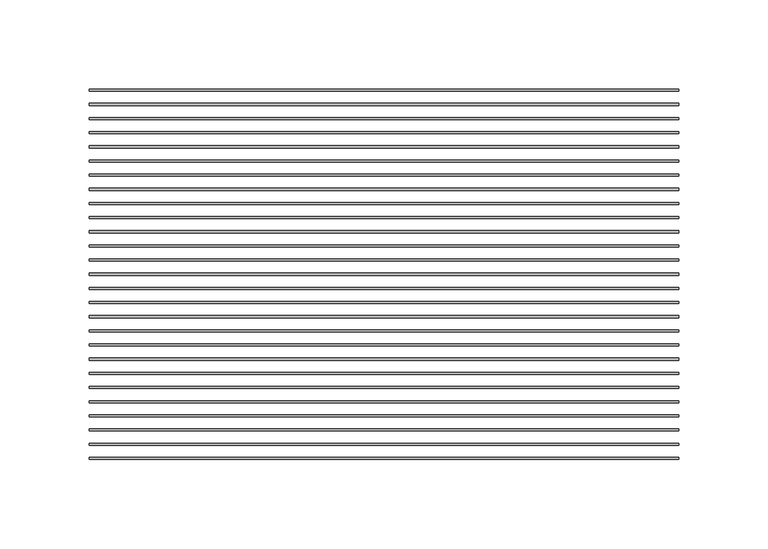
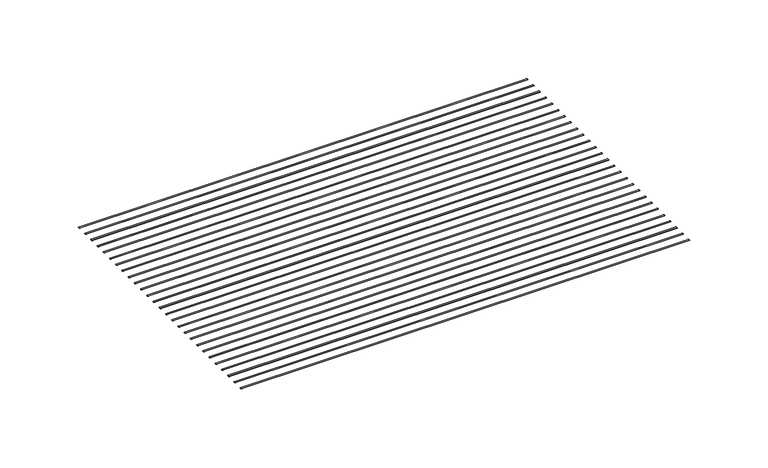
"""IFC4 building model written with IfcOpenShell, lengths in millimetres: proxy geometry, CRAi Generic Model Mesh Piece Face Based : CRAi Generic Model Mesh Piece Face Based."""

from ifc_helpers import new_model, si_unit, point, frame, origin, place, context, project, spatial, ellipse_curve, trimmed, source, transform, mapped, element, save
from ifc_brep_helpers import plane_surface, extruded_surface, advanced_brep


def generic_models_d678dd29(model_context):
    return source(origin(), model_context, "Body", "AdvancedBrep", [
        advanced_brep(
        [(-165.1, 133.1515625, -2.9765625), (-165.1, 131.9609375, -2.9765625), (165.1, 133.1515625, -2.9765625), (165.1, 131.9609375, -2.9765625)],
        [
            (0, 1, ellipse_curve(frame((-165.1, 132.55625, -2.9765625), z_axis=(-1.0, 0.0, 0.0), x_axis=(0.0, -1.0, 0.0)), 0.5953125, 0.1984375)),
            (1, 0, ellipse_curve(frame((-165.1, 132.55625, -2.9765625), z_axis=(-1.0, 0.0, 0.0), x_axis=(0.0, -1.0, 0.0)), 0.5953125, 0.1984375)),
            (2, 3, ellipse_curve(frame((165.1, 132.55625, -2.9765625), z_axis=(1.0, 0.0, 0.0), x_axis=(0.0, -1.0, 0.0)), 0.5953125, 0.1984375)),
            (3, 2, ellipse_curve(frame((165.1, 132.55625, -2.9765625), z_axis=(1.0, 0.0, 0.0), x_axis=(0.0, -1.0, 0.0)), 0.5953125, 0.1984375)),
            (0, 2),
            (3, 1),
        ],
        [
            plane_surface(frame((-165.1, 132.55625, -2.9765625), z_axis=(-1.0, 0.0, 0.0), x_axis=(0.0, 0.0, 1.0))),
            plane_surface(frame((165.1, 132.55625, -2.9765625), z_axis=(1.0, 0.0, 0.0), x_axis=(0.0, 0.0, 1.0))),
            extruded_surface(trimmed(ellipse_curve(frame((165.1, 132.55625, -2.9765625), z_axis=(-1.0, 0.0, 0.0), x_axis=(0.0, -1.0, 0.0)), 0.5953125, 0.1984375), [point((165.1, 133.1515625, -2.9765625))], [point((165.1, 131.9609375, -2.9765625))], True, "CARTESIAN"), (-330.2, 0.0, 0.0), 330.2),
            extruded_surface(trimmed(ellipse_curve(frame((165.1, 132.55625, -2.9765625), z_axis=(-1.0, 0.0, 0.0), x_axis=(0.0, -1.0, 0.0)), 0.5953125, 0.1984375), [point((165.1, 131.9609375, -2.9765625))], [point((165.1, 133.1515625, -2.9765625))], True, "CARTESIAN"), (-330.2, 0.0, 0.0), 330.2),
        ],
        [
            (0, [[1, 2]]),
            (1, [[3, 4]]),
            (2, [[-1, 5, -4, 6]]),
            (3, [[-2, -6, -3, -5]]),
        ],
    ),
        advanced_brep(
        [(-165.1, 125.2140625, -2.9765625), (-165.1, 124.0234375, -2.9765625), (165.1, 125.2140625, -2.9765625), (165.1, 124.0234375, -2.9765625)],
        [
            (0, 1, ellipse_curve(frame((-165.1, 124.61875, -2.9765625), z_axis=(-1.0, 0.0, 0.0), x_axis=(0.0, -1.0, 0.0)), 0.5953125, 0.1984375)),
            (1, 0, ellipse_curve(frame((-165.1, 124.61875, -2.9765625), z_axis=(-1.0, 0.0, 0.0), x_axis=(0.0, -1.0, 0.0)), 0.5953125, 0.1984375)),
            (2, 3, ellipse_curve(frame((165.1, 124.61875, -2.9765625), z_axis=(1.0, 0.0, 0.0), x_axis=(0.0, -1.0, 0.0)), 0.5953125, 0.1984375)),
            (3, 2, ellipse_curve(frame((165.1, 124.61875, -2.9765625), z_axis=(1.0, 0.0, 0.0), x_axis=(0.0, -1.0, 0.0)), 0.5953125, 0.1984375)),
            (0, 2),
            (3, 1),
        ],
        [
            plane_surface(frame((-165.1, 124.61875, -2.9765625), z_axis=(-1.0, 0.0, 0.0), x_axis=(0.0, 0.0, 1.0))),
            plane_surface(frame((165.1, 124.61875, -2.9765625), z_axis=(1.0, 0.0, 0.0), x_axis=(0.0, 0.0, 1.0))),
            extruded_surface(trimmed(ellipse_curve(frame((165.1, 124.61875, -2.9765625), z_axis=(-1.0, 0.0, 0.0), x_axis=(0.0, -1.0, 0.0)), 0.5953125, 0.1984375), [point((165.1, 125.2140625, -2.9765625))], [point((165.1, 124.0234375, -2.9765625))], True, "CARTESIAN"), (-330.2, 0.0, 0.0), 330.2),
            extruded_surface(trimmed(ellipse_curve(frame((165.1, 124.61875, -2.9765625), z_axis=(-1.0, 0.0, 0.0), x_axis=(0.0, -1.0, 0.0)), 0.5953125, 0.1984375), [point((165.1, 124.0234375, -2.9765625))], [point((165.1, 125.2140625, -2.9765625))], True, "CARTESIAN"), (-330.2, 0.0, 0.0), 330.2),
        ],
        [
            (0, [[1, 2]]),
            (1, [[3, 4]]),
            (2, [[-1, 5, -4, 6]]),
            (3, [[-2, -6, -3, -5]]),
        ],
    ),
        advanced_brep(
        [(-165.1, 117.2765625, -2.9765625), (-165.1, 116.0859375, -2.9765625), (165.1, 117.2765625, -2.9765625), (165.1, 116.0859375, -2.9765625)],
        [
            (0, 1, ellipse_curve(frame((-165.1, 116.68125, -2.9765625), z_axis=(-1.0, 0.0, 0.0), x_axis=(0.0, -1.0, 0.0)), 0.5953125, 0.1984375)),
            (1, 0, ellipse_curve(frame((-165.1, 116.68125, -2.9765625), z_axis=(-1.0, 0.0, 0.0), x_axis=(0.0, -1.0, 0.0)), 0.5953125, 0.1984375)),
            (2, 3, ellipse_curve(frame((165.1, 116.68125, -2.9765625), z_axis=(1.0, 0.0, 0.0), x_axis=(0.0, -1.0, 0.0)), 0.5953125, 0.1984375)),
            (3, 2, ellipse_curve(frame((165.1, 116.68125, -2.9765625), z_axis=(1.0, 0.0, 0.0), x_axis=(0.0, -1.0, 0.0)), 0.5953125, 0.1984375)),
            (0, 2),
            (3, 1),
        ],
        [
            plane_surface(frame((-165.1, 116.68125, -2.9765625), z_axis=(-1.0, 0.0, 0.0), x_axis=(0.0, 0.0, 1.0))),
            plane_surface(frame((165.1, 116.68125, -2.9765625), z_axis=(1.0, 0.0, 0.0), x_axis=(0.0, 0.0, 1.0))),
            extruded_surface(trimmed(ellipse_curve(frame((165.1, 116.68125, -2.9765625), z_axis=(-1.0, 0.0, 0.0), x_axis=(0.0, -1.0, 0.0)), 0.5953125, 0.1984375), [point((165.1, 117.2765625, -2.9765625))], [point((165.1, 116.0859375, -2.9765625))], True, "CARTESIAN"), (-330.2, 0.0, 0.0), 330.2),
            extruded_surface(trimmed(ellipse_curve(frame((165.1, 116.68125, -2.9765625), z_axis=(-1.0, 0.0, 0.0), x_axis=(0.0, -1.0, 0.0)), 0.5953125, 0.1984375), [point((165.1, 116.0859375, -2.9765625))], [point((165.1, 117.2765625, -2.9765625))], True, "CARTESIAN"), (-330.2, 0.0, 0.0), 330.2),
        ],
        [
            (0, [[1, 2]]),
            (1, [[3, 4]]),
            (2, [[-1, 5, -4, 6]]),
            (3, [[-2, -6, -3, -5]]),
        ],
    ),
        advanced_brep(
        [(-165.1, 109.3390625, -2.9765625), (-165.1, 108.1484375, -2.9765625), (165.1, 109.3390625, -2.9765625), (165.1, 108.1484375, -2.9765625)],
        [
            (0, 1, ellipse_curve(frame((-165.1, 108.74375, -2.9765625), z_axis=(-1.0, 0.0, 0.0), x_axis=(0.0, -1.0, 0.0)), 0.5953125, 0.1984375)),
            (1, 0, ellipse_curve(frame((-165.1, 108.74375, -2.9765625), z_axis=(-1.0, 0.0, 0.0), x_axis=(0.0, -1.0, 0.0)), 0.5953125, 0.1984375)),
            (2, 3, ellipse_curve(frame((165.1, 108.74375, -2.9765625), z_axis=(1.0, 0.0, 0.0), x_axis=(0.0, -1.0, 0.0)), 0.5953125, 0.1984375)),
            (3, 2, ellipse_curve(frame((165.1, 108.74375, -2.9765625), z_axis=(1.0, 0.0, 0.0), x_axis=(0.0, -1.0, 0.0)), 0.5953125, 0.1984375)),
            (0, 2),
            (3, 1),
        ],
        [
            plane_surface(frame((-165.1, 108.74375, -2.9765625), z_axis=(-1.0, 0.0, 0.0), x_axis=(0.0, 0.0, 1.0))),
            plane_surface(frame((165.1, 108.74375, -2.9765625), z_axis=(1.0, 0.0, 0.0), x_axis=(0.0, 0.0, 1.0))),
            extruded_surface(trimmed(ellipse_curve(frame((165.1, 108.74375, -2.9765625), z_axis=(-1.0, 0.0, 0.0), x_axis=(0.0, -1.0, 0.0)), 0.5953125, 0.1984375), [point((165.1, 109.3390625, -2.9765625))], [point((165.1, 108.1484375, -2.9765625))], True, "CARTESIAN"), (-330.2, 0.0, 0.0), 330.2),
            extruded_surface(trimmed(ellipse_curve(frame((165.1, 108.74375, -2.9765625), z_axis=(-1.0, 0.0, 0.0), x_axis=(0.0, -1.0, 0.0)), 0.5953125, 0.1984375), [point((165.1, 108.1484375, -2.9765625))], [point((165.1, 109.3390625, -2.9765625))], True, "CARTESIAN"), (-330.2, 0.0, 0.0), 330.2),
        ],
        [
            (0, [[1, 2]]),
            (1, [[3, 4]]),
            (2, [[-1, 5, -4, 6]]),
            (3, [[-2, -6, -3, -5]]),
        ],
    ),
        advanced_brep(
        [(-165.1, 101.4015625, -2.9765625), (-165.1, 100.2109375, -2.9765625), (165.1, 101.4015625, -2.9765625), (165.1, 100.2109375, -2.9765625)],
        [
            (0, 1, ellipse_curve(frame((-165.1, 100.80625, -2.9765625), z_axis=(-1.0, 0.0, 0.0), x_axis=(0.0, -1.0, 0.0)), 0.5953125, 0.1984375)),
            (1, 0, ellipse_curve(frame((-165.1, 100.80625, -2.9765625), z_axis=(-1.0, 0.0, 0.0), x_axis=(0.0, -1.0, 0.0)), 0.5953125, 0.1984375)),
            (2, 3, ellipse_curve(frame((165.1, 100.80625, -2.9765625), z_axis=(1.0, 0.0, 0.0), x_axis=(0.0, -1.0, 0.0)), 0.5953125, 0.1984375)),
            (3, 2, ellipse_curve(frame((165.1, 100.80625, -2.9765625), z_axis=(1.0, 0.0, 0.0), x_axis=(0.0, -1.0, 0.0)), 0.5953125, 0.1984375)),
            (0, 2),
            (3, 1),
        ],
        [
            plane_surface(frame((-165.1, 100.80625, -2.9765625), z_axis=(-1.0, 0.0, 0.0), x_axis=(0.0, 0.0, 1.0))),
            plane_surface(frame((165.1, 100.80625, -2.9765625), z_axis=(1.0, 0.0, 0.0), x_axis=(0.0, 0.0, 1.0))),
            extruded_surface(trimmed(ellipse_curve(frame((165.1, 100.80625, -2.9765625), z_axis=(-1.0, 0.0, 0.0), x_axis=(0.0, -1.0, 0.0)), 0.5953125, 0.1984375), [point((165.1, 101.4015625, -2.9765625))], [point((165.1, 100.2109375, -2.9765625))], True, "CARTESIAN"), (-330.2, 0.0, 0.0), 330.2),
            extruded_surface(trimmed(ellipse_curve(frame((165.1, 100.80625, -2.9765625), z_axis=(-1.0, 0.0, 0.0), x_axis=(0.0, -1.0, 0.0)), 0.5953125, 0.1984375), [point((165.1, 100.2109375, -2.9765625))], [point((165.1, 101.4015625, -2.9765625))], True, "CARTESIAN"), (-330.2, 0.0, 0.0), 330.2),
        ],
        [
            (0, [[1, 2]]),
            (1, [[3, 4]]),
            (2, [[-1, 5, -4, 6]]),
            (3, [[-2, -6, -3, -5]]),
        ],
    ),
        advanced_brep(
        [(-165.1, 93.4640625, -2.9765625), (-165.1, 92.2734375, -2.9765625), (165.1, 93.4640625, -2.9765625), (165.1, 92.2734375, -2.9765625)],
        [
            (0, 1, ellipse_curve(frame((-165.1, 92.86875, -2.9765625), z_axis=(-1.0, 0.0, 0.0), x_axis=(0.0, -1.0, 0.0)), 0.5953125, 0.1984375)),
            (1, 0, ellipse_curve(frame((-165.1, 92.86875, -2.9765625), z_axis=(-1.0, 0.0, 0.0), x_axis=(0.0, -1.0, 0.0)), 0.5953125, 0.1984375)),
            (2, 3, ellipse_curve(frame((165.1, 92.86875, -2.9765625), z_axis=(1.0, 0.0, 0.0), x_axis=(0.0, -1.0, 0.0)), 0.5953125, 0.1984375)),
            (3, 2, ellipse_curve(frame((165.1, 92.86875, -2.9765625), z_axis=(1.0, 0.0, 0.0), x_axis=(0.0, -1.0, 0.0)), 0.5953125, 0.1984375)),
            (0, 2),
            (3, 1),
        ],
        [
            plane_surface(frame((-165.1, 92.86875, -2.9765625), z_axis=(-1.0, 0.0, 0.0), x_axis=(0.0, 0.0, 1.0))),
            plane_surface(frame((165.1, 92.86875, -2.9765625), z_axis=(1.0, 0.0, 0.0), x_axis=(0.0, 0.0, 1.0))),
            extruded_surface(trimmed(ellipse_curve(frame((165.1, 92.86875, -2.9765625), z_axis=(-1.0, 0.0, 0.0), x_axis=(0.0, -1.0, 0.0)), 0.5953125, 0.1984375), [point((165.1, 93.4640625, -2.9765625))], [point((165.1, 92.2734375, -2.9765625))], True, "CARTESIAN"), (-330.2, 0.0, 0.0), 330.2),
            extruded_surface(trimmed(ellipse_curve(frame((165.1, 92.86875, -2.9765625), z_axis=(-1.0, 0.0, 0.0), x_axis=(0.0, -1.0, 0.0)), 0.5953125, 0.1984375), [point((165.1, 92.2734375, -2.9765625))], [point((165.1, 93.4640625, -2.9765625))], True, "CARTESIAN"), (-330.2, 0.0, 0.0), 330.2),
        ],
        [
            (0, [[1, 2]]),
            (1, [[3, 4]]),
            (2, [[-1, 5, -4, 6]]),
            (3, [[-2, -6, -3, -5]]),
        ],
    ),
        advanced_brep(
        [(-165.1, 85.5265625, -2.9765625), (-165.1, 84.3359375, -2.9765625), (165.1, 85.5265625, -2.9765625), (165.1, 84.3359375, -2.9765625)],
        [
            (0, 1, ellipse_curve(frame((-165.1, 84.93125, -2.9765625), z_axis=(-1.0, 0.0, 0.0), x_axis=(0.0, -1.0, 0.0)), 0.5953125, 0.1984375)),
            (1, 0, ellipse_curve(frame((-165.1, 84.93125, -2.9765625), z_axis=(-1.0, 0.0, 0.0), x_axis=(0.0, -1.0, 0.0)), 0.5953125, 0.1984375)),
            (2, 3, ellipse_curve(frame((165.1, 84.93125, -2.9765625), z_axis=(1.0, 0.0, 0.0), x_axis=(0.0, -1.0, 0.0)), 0.5953125, 0.1984375)),
            (3, 2, ellipse_curve(frame((165.1, 84.93125, -2.9765625), z_axis=(1.0, 0.0, 0.0), x_axis=(0.0, -1.0, 0.0)), 0.5953125, 0.1984375)),
            (0, 2),
            (3, 1),
        ],
        [
            plane_surface(frame((-165.1, 84.93125, -2.9765625), z_axis=(-1.0, 0.0, 0.0), x_axis=(0.0, 0.0, 1.0))),
            plane_surface(frame((165.1, 84.93125, -2.9765625), z_axis=(1.0, 0.0, 0.0), x_axis=(0.0, 0.0, 1.0))),
            extruded_surface(trimmed(ellipse_curve(frame((165.1, 84.93125, -2.9765625), z_axis=(-1.0, 0.0, 0.0), x_axis=(0.0, -1.0, 0.0)), 0.5953125, 0.1984375), [point((165.1, 85.5265625, -2.9765625))], [point((165.1, 84.3359375, -2.9765625))], True, "CARTESIAN"), (-330.2, 0.0, 0.0), 330.2),
            extruded_surface(trimmed(ellipse_curve(frame((165.1, 84.93125, -2.9765625), z_axis=(-1.0, 0.0, 0.0), x_axis=(0.0, -1.0, 0.0)), 0.5953125, 0.1984375), [point((165.1, 84.3359375, -2.9765625))], [point((165.1, 85.5265625, -2.9765625))], True, "CARTESIAN"), (-330.2, 0.0, 0.0), 330.2),
        ],
        [
            (0, [[1, 2]]),
            (1, [[3, 4]]),
            (2, [[-1, 5, -4, 6]]),
            (3, [[-2, -6, -3, -5]]),
        ],
    ),
        advanced_brep(
        [(-165.1, 77.5890625, -2.9765625), (-165.1, 76.3984375, -2.9765625), (165.1, 77.5890625, -2.9765625), (165.1, 76.3984375, -2.9765625)],
        [
            (0, 1, ellipse_curve(frame((-165.1, 76.99375, -2.9765625), z_axis=(-1.0, 0.0, 0.0), x_axis=(0.0, -1.0, 0.0)), 0.5953125, 0.1984375)),
            (1, 0, ellipse_curve(frame((-165.1, 76.99375, -2.9765625), z_axis=(-1.0, 0.0, 0.0), x_axis=(0.0, -1.0, 0.0)), 0.5953125, 0.1984375)),
            (2, 3, ellipse_curve(frame((165.1, 76.99375, -2.9765625), z_axis=(1.0, 0.0, 0.0), x_axis=(0.0, -1.0, 0.0)), 0.5953125, 0.1984375)),
            (3, 2, ellipse_curve(frame((165.1, 76.99375, -2.9765625), z_axis=(1.0, 0.0, 0.0), x_axis=(0.0, -1.0, 0.0)), 0.5953125, 0.1984375)),
            (0, 2),
            (3, 1),
        ],
        [
            plane_surface(frame((-165.1, 76.99375, -2.9765625), z_axis=(-1.0, 0.0, 0.0), x_axis=(0.0, 0.0, 1.0))),
            plane_surface(frame((165.1, 76.99375, -2.9765625), z_axis=(1.0, 0.0, 0.0), x_axis=(0.0, 0.0, 1.0))),
            extruded_surface(trimmed(ellipse_curve(frame((165.1, 76.99375, -2.9765625), z_axis=(-1.0, 0.0, 0.0), x_axis=(0.0, -1.0, 0.0)), 0.5953125, 0.1984375), [point((165.1, 77.5890625, -2.9765625))], [point((165.1, 76.3984375, -2.9765625))], True, "CARTESIAN"), (-330.2, 0.0, 0.0), 330.2),
            extruded_surface(trimmed(ellipse_curve(frame((165.1, 76.99375, -2.9765625), z_axis=(-1.0, 0.0, 0.0), x_axis=(0.0, -1.0, 0.0)), 0.5953125, 0.1984375), [point((165.1, 76.3984375, -2.9765625))], [point((165.1, 77.5890625, -2.9765625))], True, "CARTESIAN"), (-330.2, 0.0, 0.0), 330.2),
        ],
        [
            (0, [[1, 2]]),
            (1, [[3, 4]]),
            (2, [[-1, 5, -4, 6]]),
            (3, [[-2, -6, -3, -5]]),
        ],
    ),
        advanced_brep(
        [(-165.1, 69.6515625, -2.9765625), (-165.1, 68.4609375, -2.9765625), (165.1, 69.6515625, -2.9765625), (165.1, 68.4609375, -2.9765625)],
        [
            (0, 1, ellipse_curve(frame((-165.1, 69.05625, -2.9765625), z_axis=(-1.0, 0.0, 0.0), x_axis=(0.0, -1.0, 0.0)), 0.5953125, 0.1984375)),
            (1, 0, ellipse_curve(frame((-165.1, 69.05625, -2.9765625), z_axis=(-1.0, 0.0, 0.0), x_axis=(0.0, -1.0, 0.0)), 0.5953125, 0.1984375)),
            (2, 3, ellipse_curve(frame((165.1, 69.05625, -2.9765625), z_axis=(1.0, 0.0, 0.0), x_axis=(0.0, -1.0, 0.0)), 0.5953125, 0.1984375)),
            (3, 2, ellipse_curve(frame((165.1, 69.05625, -2.9765625), z_axis=(1.0, 0.0, 0.0), x_axis=(0.0, -1.0, 0.0)), 0.5953125, 0.1984375)),
            (0, 2),
            (3, 1),
        ],
        [
            plane_surface(frame((-165.1, 69.05625, -2.9765625), z_axis=(-1.0, 0.0, 0.0), x_axis=(0.0, 0.0, 1.0))),
            plane_surface(frame((165.1, 69.05625, -2.9765625), z_axis=(1.0, 0.0, 0.0), x_axis=(0.0, 0.0, 1.0))),
            extruded_surface(trimmed(ellipse_curve(frame((165.1, 69.05625, -2.9765625), z_axis=(-1.0, 0.0, 0.0), x_axis=(0.0, -1.0, 0.0)), 0.5953125, 0.1984375), [point((165.1, 69.6515625, -2.9765625))], [point((165.1, 68.4609375, -2.9765625))], True, "CARTESIAN"), (-330.2, 0.0, 0.0), 330.2),
            extruded_surface(trimmed(ellipse_curve(frame((165.1, 69.05625, -2.9765625), z_axis=(-1.0, 0.0, 0.0), x_axis=(0.0, -1.0, 0.0)), 0.5953125, 0.1984375), [point((165.1, 68.4609375, -2.9765625))], [point((165.1, 69.6515625, -2.9765625))], True, "CARTESIAN"), (-330.2, 0.0, 0.0), 330.2),
        ],
        [
            (0, [[1, 2]]),
            (1, [[3, 4]]),
            (2, [[-1, 5, -4, 6]]),
            (3, [[-2, -6, -3, -5]]),
        ],
    ),
        advanced_brep(
        [(-165.1, 61.7140625, -2.9765625), (-165.1, 60.5234375, -2.9765625), (165.1, 61.7140625, -2.9765625), (165.1, 60.5234375, -2.9765625)],
        [
            (0, 1, ellipse_curve(frame((-165.1, 61.11875, -2.9765625), z_axis=(-1.0, 0.0, 0.0), x_axis=(0.0, -1.0, 0.0)), 0.5953125, 0.1984375)),
            (1, 0, ellipse_curve(frame((-165.1, 61.11875, -2.9765625), z_axis=(-1.0, 0.0, 0.0), x_axis=(0.0, -1.0, 0.0)), 0.5953125, 0.1984375)),
            (2, 3, ellipse_curve(frame((165.1, 61.11875, -2.9765625), z_axis=(1.0, 0.0, 0.0), x_axis=(0.0, -1.0, 0.0)), 0.5953125, 0.1984375)),
            (3, 2, ellipse_curve(frame((165.1, 61.11875, -2.9765625), z_axis=(1.0, 0.0, 0.0), x_axis=(0.0, -1.0, 0.0)), 0.5953125, 0.1984375)),
            (0, 2),
            (3, 1),
        ],
        [
            plane_surface(frame((-165.1, 61.11875, -2.9765625), z_axis=(-1.0, 0.0, 0.0), x_axis=(0.0, 0.0, 1.0))),
            plane_surface(frame((165.1, 61.11875, -2.9765625), z_axis=(1.0, 0.0, 0.0), x_axis=(0.0, 0.0, 1.0))),
            extruded_surface(trimmed(ellipse_curve(frame((165.1, 61.11875, -2.9765625), z_axis=(-1.0, 0.0, 0.0), x_axis=(0.0, -1.0, 0.0)), 0.5953125, 0.1984375), [point((165.1, 61.7140625, -2.9765625))], [point((165.1, 60.5234375, -2.9765625))], True, "CARTESIAN"), (-330.2, 0.0, 0.0), 330.2),
            extruded_surface(trimmed(ellipse_curve(frame((165.1, 61.11875, -2.9765625), z_axis=(-1.0, 0.0, 0.0), x_axis=(0.0, -1.0, 0.0)), 0.5953125, 0.1984375), [point((165.1, 60.5234375, -2.9765625))], [point((165.1, 61.7140625, -2.9765625))], True, "CARTESIAN"), (-330.2, 0.0, 0.0), 330.2),
        ],
        [
            (0, [[1, 2]]),
            (1, [[3, 4]]),
            (2, [[-1, 5, -4, 6]]),
            (3, [[-2, -6, -3, -5]]),
        ],
    ),
        advanced_brep(
        [(-165.1, 53.7765625, -2.9765625), (-165.1, 52.5859375, -2.9765625), (165.1, 53.7765625, -2.9765625), (165.1, 52.5859375, -2.9765625)],
        [
            (0, 1, ellipse_curve(frame((-165.1, 53.18125, -2.9765625), z_axis=(-1.0, 0.0, 0.0), x_axis=(0.0, -1.0, 0.0)), 0.5953125, 0.1984375)),
            (1, 0, ellipse_curve(frame((-165.1, 53.18125, -2.9765625), z_axis=(-1.0, 0.0, 0.0), x_axis=(0.0, -1.0, 0.0)), 0.5953125, 0.1984375)),
            (2, 3, ellipse_curve(frame((165.1, 53.18125, -2.9765625), z_axis=(1.0, 0.0, 0.0), x_axis=(0.0, -1.0, 0.0)), 0.5953125, 0.1984375)),
            (3, 2, ellipse_curve(frame((165.1, 53.18125, -2.9765625), z_axis=(1.0, 0.0, 0.0), x_axis=(0.0, -1.0, 0.0)), 0.5953125, 0.1984375)),
            (0, 2),
            (3, 1),
        ],
        [
            plane_surface(frame((-165.1, 53.18125, -2.9765625), z_axis=(-1.0, 0.0, 0.0), x_axis=(0.0, 0.0, 1.0))),
            plane_surface(frame((165.1, 53.18125, -2.9765625), z_axis=(1.0, 0.0, 0.0), x_axis=(0.0, 0.0, 1.0))),
            extruded_surface(trimmed(ellipse_curve(frame((165.1, 53.18125, -2.9765625), z_axis=(-1.0, 0.0, 0.0), x_axis=(0.0, -1.0, 0.0)), 0.5953125, 0.1984375), [point((165.1, 53.7765625, -2.9765625))], [point((165.1, 52.5859375, -2.9765625))], True, "CARTESIAN"), (-330.2, 0.0, 0.0), 330.2),
            extruded_surface(trimmed(ellipse_curve(frame((165.1, 53.18125, -2.9765625), z_axis=(-1.0, 0.0, 0.0), x_axis=(0.0, -1.0, 0.0)), 0.5953125, 0.1984375), [point((165.1, 52.5859375, -2.9765625))], [point((165.1, 53.7765625, -2.9765625))], True, "CARTESIAN"), (-330.2, 0.0, 0.0), 330.2),
        ],
        [
            (0, [[1, 2]]),
            (1, [[3, 4]]),
            (2, [[-1, 5, -4, 6]]),
            (3, [[-2, -6, -3, -5]]),
        ],
    ),
        advanced_brep(
        [(-165.1, 45.8390625, -2.9765625), (-165.1, 44.6484375, -2.9765625), (165.1, 45.8390625, -2.9765625), (165.1, 44.6484375, -2.9765625)],
        [
            (0, 1, ellipse_curve(frame((-165.1, 45.24375, -2.9765625), z_axis=(-1.0, 0.0, 0.0), x_axis=(0.0, -1.0, 0.0)), 0.5953125, 0.1984375)),
            (1, 0, ellipse_curve(frame((-165.1, 45.24375, -2.9765625), z_axis=(-1.0, 0.0, 0.0), x_axis=(0.0, -1.0, 0.0)), 0.5953125, 0.1984375)),
            (2, 3, ellipse_curve(frame((165.1, 45.24375, -2.9765625), z_axis=(1.0, 0.0, 0.0), x_axis=(0.0, -1.0, 0.0)), 0.5953125, 0.1984375)),
            (3, 2, ellipse_curve(frame((165.1, 45.24375, -2.9765625), z_axis=(1.0, 0.0, 0.0), x_axis=(0.0, -1.0, 0.0)), 0.5953125, 0.1984375)),
            (0, 2),
            (3, 1),
        ],
        [
            plane_surface(frame((-165.1, 45.24375, -2.9765625), z_axis=(-1.0, 0.0, 0.0), x_axis=(0.0, 0.0, 1.0))),
            plane_surface(frame((165.1, 45.24375, -2.9765625), z_axis=(1.0, 0.0, 0.0), x_axis=(0.0, 0.0, 1.0))),
            extruded_surface(trimmed(ellipse_curve(frame((165.1, 45.24375, -2.9765625), z_axis=(-1.0, 0.0, 0.0), x_axis=(0.0, -1.0, 0.0)), 0.5953125, 0.1984375), [point((165.1, 45.8390625, -2.9765625))], [point((165.1, 44.6484375, -2.9765625))], True, "CARTESIAN"), (-330.2, 0.0, 0.0), 330.2),
            extruded_surface(trimmed(ellipse_curve(frame((165.1, 45.24375, -2.9765625), z_axis=(-1.0, 0.0, 0.0), x_axis=(0.0, -1.0, 0.0)), 0.5953125, 0.1984375), [point((165.1, 44.6484375, -2.9765625))], [point((165.1, 45.8390625, -2.9765625))], True, "CARTESIAN"), (-330.2, 0.0, 0.0), 330.2),
        ],
        [
            (0, [[1, 2]]),
            (1, [[3, 4]]),
            (2, [[-1, 5, -4, 6]]),
            (3, [[-2, -6, -3, -5]]),
        ],
    ),
        advanced_brep(
        [(-165.1, 37.9015625, -2.9765625), (-165.1, 36.7109375, -2.9765625), (165.1, 37.9015625, -2.9765625), (165.1, 36.7109375, -2.9765625)],
        [
            (0, 1, ellipse_curve(frame((-165.1, 37.30625, -2.9765625), z_axis=(-1.0, 0.0, 0.0), x_axis=(0.0, -1.0, 0.0)), 0.5953125, 0.1984375)),
            (1, 0, ellipse_curve(frame((-165.1, 37.30625, -2.9765625), z_axis=(-1.0, 0.0, 0.0), x_axis=(0.0, -1.0, 0.0)), 0.5953125, 0.1984375)),
            (2, 3, ellipse_curve(frame((165.1, 37.30625, -2.9765625), z_axis=(1.0, 0.0, 0.0), x_axis=(0.0, -1.0, 0.0)), 0.5953125, 0.1984375)),
            (3, 2, ellipse_curve(frame((165.1, 37.30625, -2.9765625), z_axis=(1.0, 0.0, 0.0), x_axis=(0.0, -1.0, 0.0)), 0.5953125, 0.1984375)),
            (0, 2),
            (3, 1),
        ],
        [
            plane_surface(frame((-165.1, 37.30625, -2.9765625), z_axis=(-1.0, 0.0, 0.0), x_axis=(0.0, 0.0, 1.0))),
            plane_surface(frame((165.1, 37.30625, -2.9765625), z_axis=(1.0, 0.0, 0.0), x_axis=(0.0, 0.0, 1.0))),
            extruded_surface(trimmed(ellipse_curve(frame((165.1, 37.30625, -2.9765625), z_axis=(-1.0, 0.0, 0.0), x_axis=(0.0, -1.0, 0.0)), 0.5953125, 0.1984375), [point((165.1, 37.9015625, -2.9765625))], [point((165.1, 36.7109375, -2.9765625))], True, "CARTESIAN"), (-330.2, 0.0, 0.0), 330.2),
            extruded_surface(trimmed(ellipse_curve(frame((165.1, 37.30625, -2.9765625), z_axis=(-1.0, 0.0, 0.0), x_axis=(0.0, -1.0, 0.0)), 0.5953125, 0.1984375), [point((165.1, 36.7109375, -2.9765625))], [point((165.1, 37.9015625, -2.9765625))], True, "CARTESIAN"), (-330.2, 0.0, 0.0), 330.2),
        ],
        [
            (0, [[1, 2]]),
            (1, [[3, 4]]),
            (2, [[-1, 5, -4, 6]]),
            (3, [[-2, -6, -3, -5]]),
        ],
    ),
        advanced_brep(
        [(-165.1, 29.9640625, -2.9765625), (-165.1, 28.7734375, -2.9765625), (165.1, 29.9640625, -2.9765625), (165.1, 28.7734375, -2.9765625)],
        [
            (0, 1, ellipse_curve(frame((-165.1, 29.36875, -2.9765625), z_axis=(-1.0, 0.0, 0.0), x_axis=(0.0, -1.0, 0.0)), 0.5953125, 0.1984375)),
            (1, 0, ellipse_curve(frame((-165.1, 29.36875, -2.9765625), z_axis=(-1.0, 0.0, 0.0), x_axis=(0.0, -1.0, 0.0)), 0.5953125, 0.1984375)),
            (2, 3, ellipse_curve(frame((165.1, 29.36875, -2.9765625), z_axis=(1.0, 0.0, 0.0), x_axis=(0.0, -1.0, 0.0)), 0.5953125, 0.1984375)),
            (3, 2, ellipse_curve(frame((165.1, 29.36875, -2.9765625), z_axis=(1.0, 0.0, 0.0), x_axis=(0.0, -1.0, 0.0)), 0.5953125, 0.1984375)),
            (0, 2),
            (3, 1),
        ],
        [
            plane_surface(frame((-165.1, 29.36875, -2.9765625), z_axis=(-1.0, 0.0, 0.0), x_axis=(0.0, 0.0, 1.0))),
            plane_surface(frame((165.1, 29.36875, -2.9765625), z_axis=(1.0, 0.0, 0.0), x_axis=(0.0, 0.0, 1.0))),
            extruded_surface(trimmed(ellipse_curve(frame((165.1, 29.36875, -2.9765625), z_axis=(-1.0, 0.0, 0.0), x_axis=(0.0, -1.0, 0.0)), 0.5953125, 0.1984375), [point((165.1, 29.9640625, -2.9765625))], [point((165.1, 28.7734375, -2.9765625))], True, "CARTESIAN"), (-330.2, 0.0, 0.0), 330.2),
            extruded_surface(trimmed(ellipse_curve(frame((165.1, 29.36875, -2.9765625), z_axis=(-1.0, 0.0, 0.0), x_axis=(0.0, -1.0, 0.0)), 0.5953125, 0.1984375), [point((165.1, 28.7734375, -2.9765625))], [point((165.1, 29.9640625, -2.9765625))], True, "CARTESIAN"), (-330.2, 0.0, 0.0), 330.2),
        ],
        [
            (0, [[1, 2]]),
            (1, [[3, 4]]),
            (2, [[-1, 5, -4, 6]]),
            (3, [[-2, -6, -3, -5]]),
        ],
    ),
        advanced_brep(
        [(-165.1, 22.0265625, -2.9765625), (-165.1, 20.8359375, -2.9765625), (165.1, 22.0265625, -2.9765625), (165.1, 20.8359375, -2.9765625)],
        [
            (0, 1, ellipse_curve(frame((-165.1, 21.43125, -2.9765625), z_axis=(-1.0, 0.0, 0.0), x_axis=(0.0, -1.0, 0.0)), 0.5953125, 0.1984375)),
            (1, 0, ellipse_curve(frame((-165.1, 21.43125, -2.9765625), z_axis=(-1.0, 0.0, 0.0), x_axis=(0.0, -1.0, 0.0)), 0.5953125, 0.1984375)),
            (2, 3, ellipse_curve(frame((165.1, 21.43125, -2.9765625), z_axis=(1.0, 0.0, 0.0), x_axis=(0.0, -1.0, 0.0)), 0.5953125, 0.1984375)),
            (3, 2, ellipse_curve(frame((165.1, 21.43125, -2.9765625), z_axis=(1.0, 0.0, 0.0), x_axis=(0.0, -1.0, 0.0)), 0.5953125, 0.1984375)),
            (0, 2),
            (3, 1),
        ],
        [
            plane_surface(frame((-165.1, 21.43125, -2.9765625), z_axis=(-1.0, 0.0, 0.0), x_axis=(0.0, 0.0, 1.0))),
            plane_surface(frame((165.1, 21.43125, -2.9765625), z_axis=(1.0, 0.0, 0.0), x_axis=(0.0, 0.0, 1.0))),
            extruded_surface(trimmed(ellipse_curve(frame((165.1, 21.43125, -2.9765625), z_axis=(-1.0, 0.0, 0.0), x_axis=(0.0, -1.0, 0.0)), 0.5953125, 0.1984375), [point((165.1, 22.0265625, -2.9765625))], [point((165.1, 20.8359375, -2.9765625))], True, "CARTESIAN"), (-330.2, 0.0, 0.0), 330.2),
            extruded_surface(trimmed(ellipse_curve(frame((165.1, 21.43125, -2.9765625), z_axis=(-1.0, 0.0, 0.0), x_axis=(0.0, -1.0, 0.0)), 0.5953125, 0.1984375), [point((165.1, 20.8359375, -2.9765625))], [point((165.1, 22.0265625, -2.9765625))], True, "CARTESIAN"), (-330.2, 0.0, 0.0), 330.2),
        ],
        [
            (0, [[1, 2]]),
            (1, [[3, 4]]),
            (2, [[-1, 5, -4, 6]]),
            (3, [[-2, -6, -3, -5]]),
        ],
    ),
        advanced_brep(
        [(-165.1, 14.0890625, -2.9765625), (-165.1, 12.8984375, -2.9765625), (165.1, 14.0890625, -2.9765625), (165.1, 12.8984375, -2.9765625)],
        [
            (0, 1, ellipse_curve(frame((-165.1, 13.49375, -2.9765625), z_axis=(-1.0, 0.0, 0.0), x_axis=(0.0, -1.0, 0.0)), 0.5953125, 0.1984375)),
            (1, 0, ellipse_curve(frame((-165.1, 13.49375, -2.9765625), z_axis=(-1.0, 0.0, 0.0), x_axis=(0.0, -1.0, 0.0)), 0.5953125, 0.1984375)),
            (2, 3, ellipse_curve(frame((165.1, 13.49375, -2.9765625), z_axis=(1.0, 0.0, 0.0), x_axis=(0.0, -1.0, 0.0)), 0.5953125, 0.1984375)),
            (3, 2, ellipse_curve(frame((165.1, 13.49375, -2.9765625), z_axis=(1.0, 0.0, 0.0), x_axis=(0.0, -1.0, 0.0)), 0.5953125, 0.1984375)),
            (0, 2),
            (3, 1),
        ],
        [
            plane_surface(frame((-165.1, 13.49375, -2.9765625), z_axis=(-1.0, 0.0, 0.0), x_axis=(0.0, 0.0, 1.0))),
            plane_surface(frame((165.1, 13.49375, -2.9765625), z_axis=(1.0, 0.0, 0.0), x_axis=(0.0, 0.0, 1.0))),
            extruded_surface(trimmed(ellipse_curve(frame((165.1, 13.49375, -2.9765625), z_axis=(-1.0, 0.0, 0.0), x_axis=(0.0, -1.0, 0.0)), 0.5953125, 0.1984375), [point((165.1, 14.0890625, -2.9765625))], [point((165.1, 12.8984375, -2.9765625))], True, "CARTESIAN"), (-330.2, 0.0, 0.0), 330.2),
            extruded_surface(trimmed(ellipse_curve(frame((165.1, 13.49375, -2.9765625), z_axis=(-1.0, 0.0, 0.0), x_axis=(0.0, -1.0, 0.0)), 0.5953125, 0.1984375), [point((165.1, 12.8984375, -2.9765625))], [point((165.1, 14.0890625, -2.9765625))], True, "CARTESIAN"), (-330.2, 0.0, 0.0), 330.2),
        ],
        [
            (0, [[1, 2]]),
            (1, [[3, 4]]),
            (2, [[-1, 5, -4, 6]]),
            (3, [[-2, -6, -3, -5]]),
        ],
    ),
        advanced_brep(
        [(-165.1, 6.1515625, -2.9765625), (-165.1, 4.9609375, -2.9765625), (165.1, 6.1515625, -2.9765625), (165.1, 4.9609375, -2.9765625)],
        [
            (0, 1, ellipse_curve(frame((-165.1, 5.55625, -2.9765625), z_axis=(-1.0, 0.0, 0.0), x_axis=(0.0, -1.0, 0.0)), 0.5953125, 0.1984375)),
            (1, 0, ellipse_curve(frame((-165.1, 5.55625, -2.9765625), z_axis=(-1.0, 0.0, 0.0), x_axis=(0.0, -1.0, 0.0)), 0.5953125, 0.1984375)),
            (2, 3, ellipse_curve(frame((165.1, 5.55625, -2.9765625), z_axis=(1.0, 0.0, 0.0), x_axis=(0.0, -1.0, 0.0)), 0.5953125, 0.1984375)),
            (3, 2, ellipse_curve(frame((165.1, 5.55625, -2.9765625), z_axis=(1.0, 0.0, 0.0), x_axis=(0.0, -1.0, 0.0)), 0.5953125, 0.1984375)),
            (0, 2),
            (3, 1),
        ],
        [
            plane_surface(frame((-165.1, 5.55625, -2.9765625), z_axis=(-1.0, 0.0, 0.0), x_axis=(0.0, 0.0, 1.0))),
            plane_surface(frame((165.1, 5.55625, -2.9765625), z_axis=(1.0, 0.0, 0.0), x_axis=(0.0, 0.0, 1.0))),
            extruded_surface(trimmed(ellipse_curve(frame((165.1, 5.55625, -2.9765625), z_axis=(-1.0, 0.0, 0.0), x_axis=(0.0, -1.0, 0.0)), 0.5953125, 0.1984375), [point((165.1, 6.1515625, -2.9765625))], [point((165.1, 4.9609375, -2.9765625))], True, "CARTESIAN"), (-330.2, 0.0, 0.0), 330.2),
            extruded_surface(trimmed(ellipse_curve(frame((165.1, 5.55625, -2.9765625), z_axis=(-1.0, 0.0, 0.0), x_axis=(0.0, -1.0, 0.0)), 0.5953125, 0.1984375), [point((165.1, 4.9609375, -2.9765625))], [point((165.1, 6.1515625, -2.9765625))], True, "CARTESIAN"), (-330.2, 0.0, 0.0), 330.2),
        ],
        [
            (0, [[1, 2]]),
            (1, [[3, 4]]),
            (2, [[-1, 5, -4, 6]]),
            (3, [[-2, -6, -3, -5]]),
        ],
    ),
        advanced_brep(
        [(-165.1, -1.7859375, -2.9765625), (-165.1, -2.9765625, -2.9765625), (165.1, -1.7859375, -2.9765625), (165.1, -2.9765625, -2.9765625)],
        [
            (0, 1, ellipse_curve(frame((-165.1, -2.38125, -2.9765625), z_axis=(-1.0, 0.0, 0.0), x_axis=(0.0, -1.0, 0.0)), 0.5953125, 0.1984375)),
            (1, 0, ellipse_curve(frame((-165.1, -2.38125, -2.9765625), z_axis=(-1.0, 0.0, 0.0), x_axis=(0.0, -1.0, 0.0)), 0.5953125, 0.1984375)),
            (2, 3, ellipse_curve(frame((165.1, -2.38125, -2.9765625), z_axis=(1.0, 0.0, 0.0), x_axis=(0.0, -1.0, 0.0)), 0.5953125, 0.1984375)),
            (3, 2, ellipse_curve(frame((165.1, -2.38125, -2.9765625), z_axis=(1.0, 0.0, 0.0), x_axis=(0.0, -1.0, 0.0)), 0.5953125, 0.1984375)),
            (0, 2),
            (3, 1),
        ],
        [
            plane_surface(frame((-165.1, -2.38125, -2.9765625), z_axis=(-1.0, 0.0, 0.0), x_axis=(0.0, 0.0, 1.0))),
            plane_surface(frame((165.1, -2.38125, -2.9765625), z_axis=(1.0, 0.0, 0.0), x_axis=(0.0, 0.0, 1.0))),
            extruded_surface(trimmed(ellipse_curve(frame((165.1, -2.38125, -2.9765625), z_axis=(-1.0, 0.0, 0.0), x_axis=(0.0, -1.0, 0.0)), 0.5953125, 0.1984375), [point((165.1, -1.7859375, -2.9765625))], [point((165.1, -2.9765625, -2.9765625))], True, "CARTESIAN"), (-330.2, 0.0, 0.0), 330.2),
            extruded_surface(trimmed(ellipse_curve(frame((165.1, -2.38125, -2.9765625), z_axis=(-1.0, 0.0, 0.0), x_axis=(0.0, -1.0, 0.0)), 0.5953125, 0.1984375), [point((165.1, -2.9765625, -2.9765625))], [point((165.1, -1.7859375, -2.9765625))], True, "CARTESIAN"), (-330.2, 0.0, 0.0), 330.2),
        ],
        [
            (0, [[1, 2]]),
            (1, [[3, 4]]),
            (2, [[-1, 5, -4, 6]]),
            (3, [[-2, -6, -3, -5]]),
        ],
    ),
        advanced_brep(
        [(-165.1, -9.7234375, -2.9765625), (-165.1, -10.9140625, -2.9765625), (165.1, -9.7234375, -2.9765625), (165.1, -10.9140625, -2.9765625)],
        [
            (0, 1, ellipse_curve(frame((-165.1, -10.31875, -2.9765625), z_axis=(-1.0, 0.0, 0.0), x_axis=(0.0, -1.0, 0.0)), 0.5953125, 0.1984375)),
            (1, 0, ellipse_curve(frame((-165.1, -10.31875, -2.9765625), z_axis=(-1.0, 0.0, 0.0), x_axis=(0.0, -1.0, 0.0)), 0.5953125, 0.1984375)),
            (2, 3, ellipse_curve(frame((165.1, -10.31875, -2.9765625), z_axis=(1.0, 0.0, 0.0), x_axis=(0.0, -1.0, 0.0)), 0.5953125, 0.1984375)),
            (3, 2, ellipse_curve(frame((165.1, -10.31875, -2.9765625), z_axis=(1.0, 0.0, 0.0), x_axis=(0.0, -1.0, 0.0)), 0.5953125, 0.1984375)),
            (0, 2),
            (3, 1),
        ],
        [
            plane_surface(frame((-165.1, -10.31875, -2.9765625), z_axis=(-1.0, 0.0, 0.0), x_axis=(0.0, 0.0, 1.0))),
            plane_surface(frame((165.1, -10.31875, -2.9765625), z_axis=(1.0, 0.0, 0.0), x_axis=(0.0, 0.0, 1.0))),
            extruded_surface(trimmed(ellipse_curve(frame((165.1, -10.31875, -2.9765625), z_axis=(-1.0, 0.0, 0.0), x_axis=(0.0, -1.0, 0.0)), 0.5953125, 0.1984375), [point((165.1, -9.7234375, -2.9765625))], [point((165.1, -10.9140625, -2.9765625))], True, "CARTESIAN"), (-330.2, 0.0, 0.0), 330.2),
            extruded_surface(trimmed(ellipse_curve(frame((165.1, -10.31875, -2.9765625), z_axis=(-1.0, 0.0, 0.0), x_axis=(0.0, -1.0, 0.0)), 0.5953125, 0.1984375), [point((165.1, -10.9140625, -2.9765625))], [point((165.1, -9.7234375, -2.9765625))], True, "CARTESIAN"), (-330.2, 0.0, 0.0), 330.2),
        ],
        [
            (0, [[1, 2]]),
            (1, [[3, 4]]),
            (2, [[-1, 5, -4, 6]]),
            (3, [[-2, -6, -3, -5]]),
        ],
    ),
        advanced_brep(
        [(-165.1, -17.6609375, -2.9765625), (-165.1, -18.8515625, -2.9765625), (165.1, -17.6609375, -2.9765625), (165.1, -18.8515625, -2.9765625)],
        [
            (0, 1, ellipse_curve(frame((-165.1, -18.25625, -2.9765625), z_axis=(-1.0, 0.0, 0.0), x_axis=(0.0, -1.0, 0.0)), 0.5953125, 0.1984375)),
            (1, 0, ellipse_curve(frame((-165.1, -18.25625, -2.9765625), z_axis=(-1.0, 0.0, 0.0), x_axis=(0.0, -1.0, 0.0)), 0.5953125, 0.1984375)),
            (2, 3, ellipse_curve(frame((165.1, -18.25625, -2.9765625), z_axis=(1.0, 0.0, 0.0), x_axis=(0.0, -1.0, 0.0)), 0.5953125, 0.1984375)),
            (3, 2, ellipse_curve(frame((165.1, -18.25625, -2.9765625), z_axis=(1.0, 0.0, 0.0), x_axis=(0.0, -1.0, 0.0)), 0.5953125, 0.1984375)),
            (0, 2),
            (3, 1),
        ],
        [
            plane_surface(frame((-165.1, -18.25625, -2.9765625), z_axis=(-1.0, 0.0, 0.0), x_axis=(0.0, 0.0, 1.0))),
            plane_surface(frame((165.1, -18.25625, -2.9765625), z_axis=(1.0, 0.0, 0.0), x_axis=(0.0, 0.0, 1.0))),
            extruded_surface(trimmed(ellipse_curve(frame((165.1, -18.25625, -2.9765625), z_axis=(-1.0, 0.0, 0.0), x_axis=(0.0, -1.0, 0.0)), 0.5953125, 0.1984375), [point((165.1, -17.6609375, -2.9765625))], [point((165.1, -18.8515625, -2.9765625))], True, "CARTESIAN"), (-330.2, 0.0, 0.0), 330.2),
            extruded_surface(trimmed(ellipse_curve(frame((165.1, -18.25625, -2.9765625), z_axis=(-1.0, 0.0, 0.0), x_axis=(0.0, -1.0, 0.0)), 0.5953125, 0.1984375), [point((165.1, -18.8515625, -2.9765625))], [point((165.1, -17.6609375, -2.9765625))], True, "CARTESIAN"), (-330.2, 0.0, 0.0), 330.2),
        ],
        [
            (0, [[1, 2]]),
            (1, [[3, 4]]),
            (2, [[-1, 5, -4, 6]]),
            (3, [[-2, -6, -3, -5]]),
        ],
    ),
        advanced_brep(
        [(-165.1, -25.5984375, -2.9765625), (-165.1, -26.7890625, -2.9765625), (165.1, -25.5984375, -2.9765625), (165.1, -26.7890625, -2.9765625)],
        [
            (0, 1, ellipse_curve(frame((-165.1, -26.19375, -2.9765625), z_axis=(-1.0, 0.0, 0.0), x_axis=(0.0, -1.0, 0.0)), 0.5953125, 0.1984375)),
            (1, 0, ellipse_curve(frame((-165.1, -26.19375, -2.9765625), z_axis=(-1.0, 0.0, 0.0), x_axis=(0.0, -1.0, 0.0)), 0.5953125, 0.1984375)),
            (2, 3, ellipse_curve(frame((165.1, -26.19375, -2.9765625), z_axis=(1.0, 0.0, 0.0), x_axis=(0.0, -1.0, 0.0)), 0.5953125, 0.1984375)),
            (3, 2, ellipse_curve(frame((165.1, -26.19375, -2.9765625), z_axis=(1.0, 0.0, 0.0), x_axis=(0.0, -1.0, 0.0)), 0.5953125, 0.1984375)),
            (0, 2),
            (3, 1),
        ],
        [
            plane_surface(frame((-165.1, -26.19375, -2.9765625), z_axis=(-1.0, 0.0, 0.0), x_axis=(0.0, 0.0, 1.0))),
            plane_surface(frame((165.1, -26.19375, -2.9765625), z_axis=(1.0, 0.0, 0.0), x_axis=(0.0, 0.0, 1.0))),
            extruded_surface(trimmed(ellipse_curve(frame((165.1, -26.19375, -2.9765625), z_axis=(-1.0, 0.0, 0.0), x_axis=(0.0, -1.0, 0.0)), 0.5953125, 0.1984375), [point((165.1, -25.5984375, -2.9765625))], [point((165.1, -26.7890625, -2.9765625))], True, "CARTESIAN"), (-330.2, 0.0, 0.0), 330.2),
            extruded_surface(trimmed(ellipse_curve(frame((165.1, -26.19375, -2.9765625), z_axis=(-1.0, 0.0, 0.0), x_axis=(0.0, -1.0, 0.0)), 0.5953125, 0.1984375), [point((165.1, -26.7890625, -2.9765625))], [point((165.1, -25.5984375, -2.9765625))], True, "CARTESIAN"), (-330.2, 0.0, 0.0), 330.2),
        ],
        [
            (0, [[1, 2]]),
            (1, [[3, 4]]),
            (2, [[-1, 5, -4, 6]]),
            (3, [[-2, -6, -3, -5]]),
        ],
    ),
        advanced_brep(
        [(-165.1, -33.5359375, -2.9765625), (-165.1, -34.7265625, -2.9765625), (165.1, -33.5359375, -2.9765625), (165.1, -34.7265625, -2.9765625)],
        [
            (0, 1, ellipse_curve(frame((-165.1, -34.13125, -2.9765625), z_axis=(-1.0, 0.0, 0.0), x_axis=(0.0, -1.0, 0.0)), 0.5953125, 0.1984375)),
            (1, 0, ellipse_curve(frame((-165.1, -34.13125, -2.9765625), z_axis=(-1.0, 0.0, 0.0), x_axis=(0.0, -1.0, 0.0)), 0.5953125, 0.1984375)),
            (2, 3, ellipse_curve(frame((165.1, -34.13125, -2.9765625), z_axis=(1.0, 0.0, 0.0), x_axis=(0.0, -1.0, 0.0)), 0.5953125, 0.1984375)),
            (3, 2, ellipse_curve(frame((165.1, -34.13125, -2.9765625), z_axis=(1.0, 0.0, 0.0), x_axis=(0.0, -1.0, 0.0)), 0.5953125, 0.1984375)),
            (0, 2),
            (3, 1),
        ],
        [
            plane_surface(frame((-165.1, -34.13125, -2.9765625), z_axis=(-1.0, 0.0, 0.0), x_axis=(0.0, 0.0, 1.0))),
            plane_surface(frame((165.1, -34.13125, -2.9765625), z_axis=(1.0, 0.0, 0.0), x_axis=(0.0, 0.0, 1.0))),
            extruded_surface(trimmed(ellipse_curve(frame((165.1, -34.13125, -2.9765625), z_axis=(-1.0, 0.0, 0.0), x_axis=(0.0, -1.0, 0.0)), 0.5953125, 0.1984375), [point((165.1, -33.5359375, -2.9765625))], [point((165.1, -34.7265625, -2.9765625))], True, "CARTESIAN"), (-330.2, 0.0, 0.0), 330.2),
            extruded_surface(trimmed(ellipse_curve(frame((165.1, -34.13125, -2.9765625), z_axis=(-1.0, 0.0, 0.0), x_axis=(0.0, -1.0, 0.0)), 0.5953125, 0.1984375), [point((165.1, -34.7265625, -2.9765625))], [point((165.1, -33.5359375, -2.9765625))], True, "CARTESIAN"), (-330.2, 0.0, 0.0), 330.2),
        ],
        [
            (0, [[1, 2]]),
            (1, [[3, 4]]),
            (2, [[-1, 5, -4, 6]]),
            (3, [[-2, -6, -3, -5]]),
        ],
    ),
        advanced_brep(
        [(-165.1, -41.4734375, -2.9765625), (-165.1, -42.6640625, -2.9765625), (165.1, -41.4734375, -2.9765625), (165.1, -42.6640625, -2.9765625)],
        [
            (0, 1, ellipse_curve(frame((-165.1, -42.06875, -2.9765625), z_axis=(-1.0, 0.0, 0.0), x_axis=(0.0, -1.0, 0.0)), 0.5953125, 0.1984375)),
            (1, 0, ellipse_curve(frame((-165.1, -42.06875, -2.9765625), z_axis=(-1.0, 0.0, 0.0), x_axis=(0.0, -1.0, 0.0)), 0.5953125, 0.1984375)),
            (2, 3, ellipse_curve(frame((165.1, -42.06875, -2.9765625), z_axis=(1.0, 0.0, 0.0), x_axis=(0.0, -1.0, 0.0)), 0.5953125, 0.1984375)),
            (3, 2, ellipse_curve(frame((165.1, -42.06875, -2.9765625), z_axis=(1.0, 0.0, 0.0), x_axis=(0.0, -1.0, 0.0)), 0.5953125, 0.1984375)),
            (0, 2),
            (3, 1),
        ],
        [
            plane_surface(frame((-165.1, -42.06875, -2.9765625), z_axis=(-1.0, 0.0, 0.0), x_axis=(0.0, 0.0, 1.0))),
            plane_surface(frame((165.1, -42.06875, -2.9765625), z_axis=(1.0, 0.0, 0.0), x_axis=(0.0, 0.0, 1.0))),
            extruded_surface(trimmed(ellipse_curve(frame((165.1, -42.06875, -2.9765625), z_axis=(-1.0, 0.0, 0.0), x_axis=(0.0, -1.0, 0.0)), 0.5953125, 0.1984375), [point((165.1, -41.4734375, -2.9765625))], [point((165.1, -42.6640625, -2.9765625))], True, "CARTESIAN"), (-330.2, 0.0, 0.0), 330.2),
            extruded_surface(trimmed(ellipse_curve(frame((165.1, -42.06875, -2.9765625), z_axis=(-1.0, 0.0, 0.0), x_axis=(0.0, -1.0, 0.0)), 0.5953125, 0.1984375), [point((165.1, -42.6640625, -2.9765625))], [point((165.1, -41.4734375, -2.9765625))], True, "CARTESIAN"), (-330.2, 0.0, 0.0), 330.2),
        ],
        [
            (0, [[1, 2]]),
            (1, [[3, 4]]),
            (2, [[-1, 5, -4, 6]]),
            (3, [[-2, -6, -3, -5]]),
        ],
    ),
        advanced_brep(
        [(-165.1, -49.4109375, -2.9765625), (-165.1, -50.6015625, -2.9765625), (165.1, -49.4109375, -2.9765625), (165.1, -50.6015625, -2.9765625)],
        [
            (0, 1, ellipse_curve(frame((-165.1, -50.00625, -2.9765625), z_axis=(-1.0, 0.0, 0.0), x_axis=(0.0, -1.0, 0.0)), 0.5953125, 0.1984375)),
            (1, 0, ellipse_curve(frame((-165.1, -50.00625, -2.9765625), z_axis=(-1.0, 0.0, 0.0), x_axis=(0.0, -1.0, 0.0)), 0.5953125, 0.1984375)),
            (2, 3, ellipse_curve(frame((165.1, -50.00625, -2.9765625), z_axis=(1.0, 0.0, 0.0), x_axis=(0.0, -1.0, 0.0)), 0.5953125, 0.1984375)),
            (3, 2, ellipse_curve(frame((165.1, -50.00625, -2.9765625), z_axis=(1.0, 0.0, 0.0), x_axis=(0.0, -1.0, 0.0)), 0.5953125, 0.1984375)),
            (0, 2),
            (3, 1),
        ],
        [
            plane_surface(frame((-165.1, -50.00625, -2.9765625), z_axis=(-1.0, 0.0, 0.0), x_axis=(0.0, 0.0, 1.0))),
            plane_surface(frame((165.1, -50.00625, -2.9765625), z_axis=(1.0, 0.0, 0.0), x_axis=(0.0, 0.0, 1.0))),
            extruded_surface(trimmed(ellipse_curve(frame((165.1, -50.00625, -2.9765625), z_axis=(-1.0, 0.0, 0.0), x_axis=(0.0, -1.0, 0.0)), 0.5953125, 0.1984375), [point((165.1, -49.4109375, -2.9765625))], [point((165.1, -50.6015625, -2.9765625))], True, "CARTESIAN"), (-330.2, 0.0, 0.0), 330.2),
            extruded_surface(trimmed(ellipse_curve(frame((165.1, -50.00625, -2.9765625), z_axis=(-1.0, 0.0, 0.0), x_axis=(0.0, -1.0, 0.0)), 0.5953125, 0.1984375), [point((165.1, -50.6015625, -2.9765625))], [point((165.1, -49.4109375, -2.9765625))], True, "CARTESIAN"), (-330.2, 0.0, 0.0), 330.2),
        ],
        [
            (0, [[1, 2]]),
            (1, [[3, 4]]),
            (2, [[-1, 5, -4, 6]]),
            (3, [[-2, -6, -3, -5]]),
        ],
    ),
        advanced_brep(
        [(-165.1, -57.3484375, -2.9765625), (-165.1, -58.5390625, -2.9765625), (165.1, -57.3484375, -2.9765625), (165.1, -58.5390625, -2.9765625)],
        [
            (0, 1, ellipse_curve(frame((-165.1, -57.94375, -2.9765625), z_axis=(-1.0, 0.0, 0.0), x_axis=(0.0, -1.0, 0.0)), 0.5953125, 0.1984375)),
            (1, 0, ellipse_curve(frame((-165.1, -57.94375, -2.9765625), z_axis=(-1.0, 0.0, 0.0), x_axis=(0.0, -1.0, 0.0)), 0.5953125, 0.1984375)),
            (2, 3, ellipse_curve(frame((165.1, -57.94375, -2.9765625), z_axis=(1.0, 0.0, 0.0), x_axis=(0.0, -1.0, 0.0)), 0.5953125, 0.1984375)),
            (3, 2, ellipse_curve(frame((165.1, -57.94375, -2.9765625), z_axis=(1.0, 0.0, 0.0), x_axis=(0.0, -1.0, 0.0)), 0.5953125, 0.1984375)),
            (0, 2),
            (3, 1),
        ],
        [
            plane_surface(frame((-165.1, -57.94375, -2.9765625), z_axis=(-1.0, 0.0, 0.0), x_axis=(0.0, 0.0, 1.0))),
            plane_surface(frame((165.1, -57.94375, -2.9765625), z_axis=(1.0, 0.0, 0.0), x_axis=(0.0, 0.0, 1.0))),
            extruded_surface(trimmed(ellipse_curve(frame((165.1, -57.94375, -2.9765625), z_axis=(-1.0, 0.0, 0.0), x_axis=(0.0, -1.0, 0.0)), 0.5953125, 0.1984375), [point((165.1, -57.3484375, -2.9765625))], [point((165.1, -58.5390625, -2.9765625))], True, "CARTESIAN"), (-330.2, 0.0, 0.0), 330.2),
            extruded_surface(trimmed(ellipse_curve(frame((165.1, -57.94375, -2.9765625), z_axis=(-1.0, 0.0, 0.0), x_axis=(0.0, -1.0, 0.0)), 0.5953125, 0.1984375), [point((165.1, -58.5390625, -2.9765625))], [point((165.1, -57.3484375, -2.9765625))], True, "CARTESIAN"), (-330.2, 0.0, 0.0), 330.2),
        ],
        [
            (0, [[1, 2]]),
            (1, [[3, 4]]),
            (2, [[-1, 5, -4, 6]]),
            (3, [[-2, -6, -3, -5]]),
        ],
    ),
        advanced_brep(
        [(-165.1, -65.2859375, -2.9765625), (-165.1, -66.4765625, -2.9765625), (165.1, -65.2859375, -2.9765625), (165.1, -66.4765625, -2.9765625)],
        [
            (0, 1, ellipse_curve(frame((-165.1, -65.88125, -2.9765625), z_axis=(-1.0, 0.0, 0.0), x_axis=(0.0, -1.0, 0.0)), 0.5953125, 0.1984375)),
            (1, 0, ellipse_curve(frame((-165.1, -65.88125, -2.9765625), z_axis=(-1.0, 0.0, 0.0), x_axis=(0.0, -1.0, 0.0)), 0.5953125, 0.1984375)),
            (2, 3, ellipse_curve(frame((165.1, -65.88125, -2.9765625), z_axis=(1.0, 0.0, 0.0), x_axis=(0.0, -1.0, 0.0)), 0.5953125, 0.1984375)),
            (3, 2, ellipse_curve(frame((165.1, -65.88125, -2.9765625), z_axis=(1.0, 0.0, 0.0), x_axis=(0.0, -1.0, 0.0)), 0.5953125, 0.1984375)),
            (0, 2),
            (3, 1),
        ],
        [
            plane_surface(frame((-165.1, -65.88125, -2.9765625), z_axis=(-1.0, 0.0, 0.0), x_axis=(0.0, 0.0, 1.0))),
            plane_surface(frame((165.1, -65.88125, -2.9765625), z_axis=(1.0, 0.0, 0.0), x_axis=(0.0, 0.0, 1.0))),
            extruded_surface(trimmed(ellipse_curve(frame((165.1, -65.88125, -2.9765625), z_axis=(-1.0, 0.0, 0.0), x_axis=(0.0, -1.0, 0.0)), 0.5953125, 0.1984375), [point((165.1, -65.2859375, -2.9765625))], [point((165.1, -66.4765625, -2.9765625))], True, "CARTESIAN"), (-330.2, 0.0, 0.0), 330.2),
            extruded_surface(trimmed(ellipse_curve(frame((165.1, -65.88125, -2.9765625), z_axis=(-1.0, 0.0, 0.0), x_axis=(0.0, -1.0, 0.0)), 0.5953125, 0.1984375), [point((165.1, -66.4765625, -2.9765625))], [point((165.1, -65.2859375, -2.9765625))], True, "CARTESIAN"), (-330.2, 0.0, 0.0), 330.2),
        ],
        [
            (0, [[1, 2]]),
            (1, [[3, 4]]),
            (2, [[-1, 5, -4, 6]]),
            (3, [[-2, -6, -3, -5]]),
        ],
    ),
        advanced_brep(
        [(-165.1, -73.2234375, -2.9765625), (-165.1, -74.4140625, -2.9765625), (165.1, -73.2234375, -2.9765625), (165.1, -74.4140625, -2.9765625)],
        [
            (0, 1, ellipse_curve(frame((-165.1, -73.81875, -2.9765625), z_axis=(-1.0, 0.0, 0.0), x_axis=(0.0, -1.0, 0.0)), 0.5953125, 0.1984375)),
            (1, 0, ellipse_curve(frame((-165.1, -73.81875, -2.9765625), z_axis=(-1.0, 0.0, 0.0), x_axis=(0.0, -1.0, 0.0)), 0.5953125, 0.1984375)),
            (2, 3, ellipse_curve(frame((165.1, -73.81875, -2.9765625), z_axis=(1.0, 0.0, 0.0), x_axis=(0.0, -1.0, 0.0)), 0.5953125, 0.1984375)),
            (3, 2, ellipse_curve(frame((165.1, -73.81875, -2.9765625), z_axis=(1.0, 0.0, 0.0), x_axis=(0.0, -1.0, 0.0)), 0.5953125, 0.1984375)),
            (0, 2),
            (3, 1),
        ],
        [
            plane_surface(frame((-165.1, -73.81875, -2.9765625), z_axis=(-1.0, 0.0, 0.0), x_axis=(0.0, 0.0, 1.0))),
            plane_surface(frame((165.1, -73.81875, -2.9765625), z_axis=(1.0, 0.0, 0.0), x_axis=(0.0, 0.0, 1.0))),
            extruded_surface(trimmed(ellipse_curve(frame((165.1, -73.81875, -2.9765625), z_axis=(-1.0, 0.0, 0.0), x_axis=(0.0, -1.0, 0.0)), 0.5953125, 0.1984375), [point((165.1, -73.2234375, -2.9765625))], [point((165.1, -74.4140625, -2.9765625))], True, "CARTESIAN"), (-330.2, 0.0, 0.0), 330.2),
            extruded_surface(trimmed(ellipse_curve(frame((165.1, -73.81875, -2.9765625), z_axis=(-1.0, 0.0, 0.0), x_axis=(0.0, -1.0, 0.0)), 0.5953125, 0.1984375), [point((165.1, -74.4140625, -2.9765625))], [point((165.1, -73.2234375, -2.9765625))], True, "CARTESIAN"), (-330.2, 0.0, 0.0), 330.2),
        ],
        [
            (0, [[1, 2]]),
            (1, [[3, 4]]),
            (2, [[-1, 5, -4, 6]]),
            (3, [[-2, -6, -3, -5]]),
        ],
    ),
    ])


if __name__ == "__main__":
    model = new_model("IFC4")
    model_context = context("Model", 3, world=origin())
    ifc_project = project(units=[si_unit("LENGTHUNIT", "METRE", prefix="MILLI")], contexts=[model_context])
    site = spatial("IfcSite", under=ifc_project)
    building = spatial("IfcBuilding", under=site)
    placement = place(None, origin())
    generic_models_shape = generic_models_d678dd29(model_context)
    element("IfcBuildingElementProxy", 1, Name="CRAi Generic Model Mesh Piece Face Based : CRAi Generic Model Mesh Piece Face Based", ObjectType="CRAi Generic Model Mesh Piece Face Based : CRAi Generic Model Mesh Piece Face Based", at=placement, inside=building, context=model_context, shape_type="MappedRepresentation", body=[
        mapped(generic_models_shape, transform((0.0, 0.0, 0.0), x_axis=(1.0, 0.0, 0.0), y_axis=(0.0, 1.0, 0.0), z_axis=(0.0, 0.0, 1.0))),
    ])
    save(model, "model.ifc")
